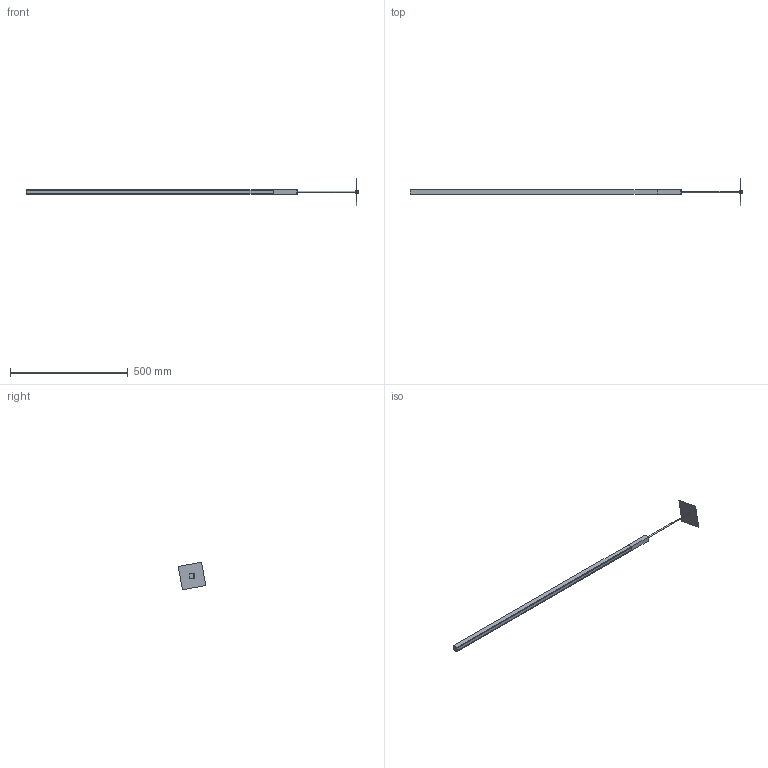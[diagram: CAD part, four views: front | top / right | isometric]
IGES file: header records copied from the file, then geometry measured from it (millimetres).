
Start section: SolidWorks IGES file using analytic representation for surfaces
Global section: file name: C:\Users\tungari.NEMOLIGHTING\Desktop\3D\PENDANT\3D_LINESCAPES_V_RECESSED\DEF\3D_LINESCAPES_RECESSED.IGS; native system: SolidWorks 2016; preprocessor: SolidWorks 2016; author: tungari; date: 180409.122944; units: millimetre
Bounding box: 1407 x 115.97 x 115.97 mm (x, y, z)
Surface area: 168482.5 mm2 (no closed solid volume)
Topology: 0 solids, 0 shells, 84 faces, 778 edges, 778 vertices
Faces by surface type: bspline 60, revolution 24
